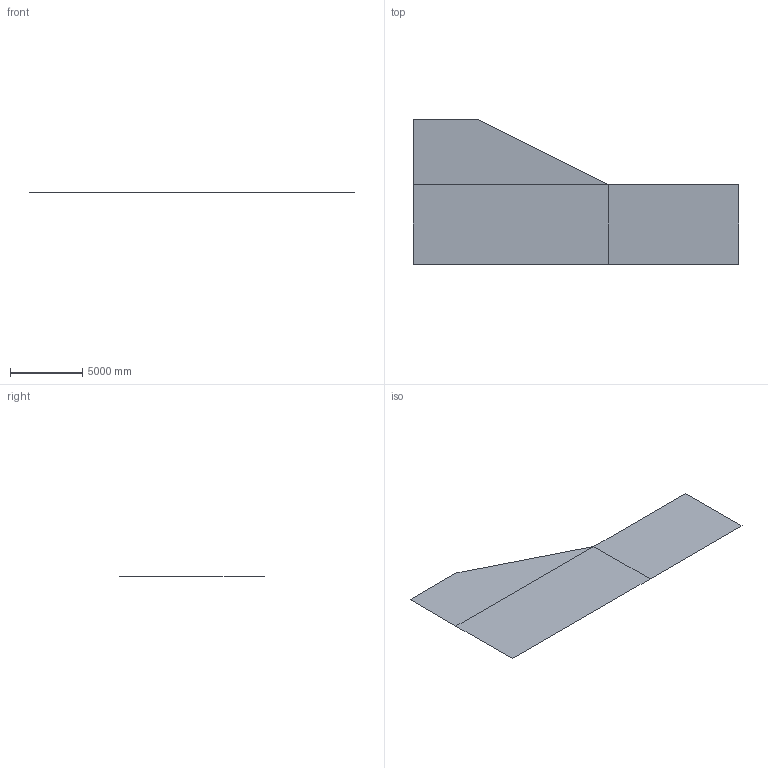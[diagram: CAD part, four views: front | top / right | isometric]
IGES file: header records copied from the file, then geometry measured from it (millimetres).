
Start section: 21HTranslator GiD - IGES
Global section: file name: C:/Users/Administrator/Desktop/MeshForFSSI.igs; native system: GiD; preprocessor: 14.0.1; organization: CIMNE - International Center for Numerical Methods in Engineering; date: 240414.223220; units: metre
Bounding box: 22500 x 10000 x 0 mm (x, y, z)
Surface area: 164250000.1 mm2 (no closed solid volume)
Topology: 0 solids, 0 shells, 3 faces, 12 edges, 12 vertices
Faces by surface type: bspline 3
